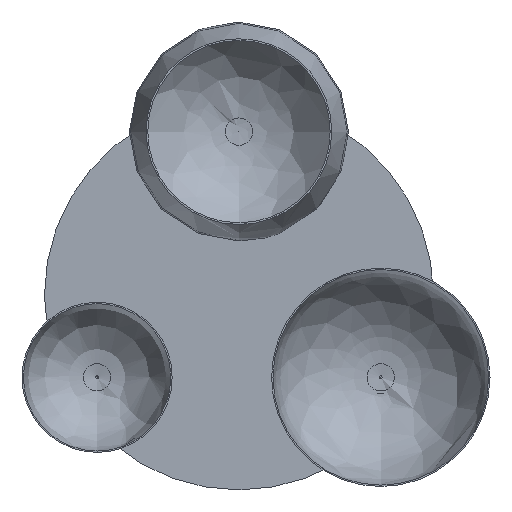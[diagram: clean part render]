
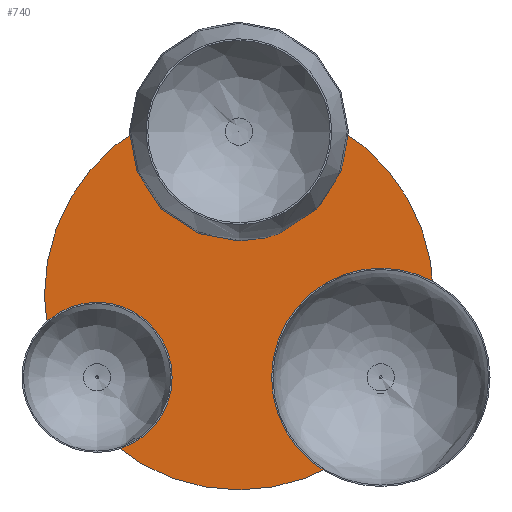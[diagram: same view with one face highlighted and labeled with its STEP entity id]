
A CAD part, front view. The second image highlights one B-rep face of the part: STEP entity #740.
In plain terms, the highlighted planar face has unit normal (0, -1, 0).
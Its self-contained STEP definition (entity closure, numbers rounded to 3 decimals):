
#135=PLANE('',#840);
#167=FACE_OUTER_BOUND('',#225,.T.);
#225=EDGE_LOOP('',(#555));
#352=CIRCLE('',#838,142.5);
#407=VERTEX_POINT('',#1256);
#467=EDGE_CURVE('',#407,#407,#352,.T.);
#555=ORIENTED_EDGE('',*,*,#467,.F.);
#740=ADVANCED_FACE('',(#167),#135,.F.);
#838=AXIS2_PLACEMENT_3D('',#1258,#973,#974);
#840=AXIS2_PLACEMENT_3D('',#1260,#977,#978);
#973=DIRECTION('center_axis',(0.,1.,0.));
#974=DIRECTION('ref_axis',(1.,0.,0.));
#977=DIRECTION('center_axis',(0.,1.,0.));
#978=DIRECTION('ref_axis',(1.,0.,0.));
#1256=CARTESIAN_POINT('',(-142.5,0.,0.));
#1258=CARTESIAN_POINT('Origin',(0.,0.,0.));
#1260=CARTESIAN_POINT('Origin',(0.,0.,0.));
